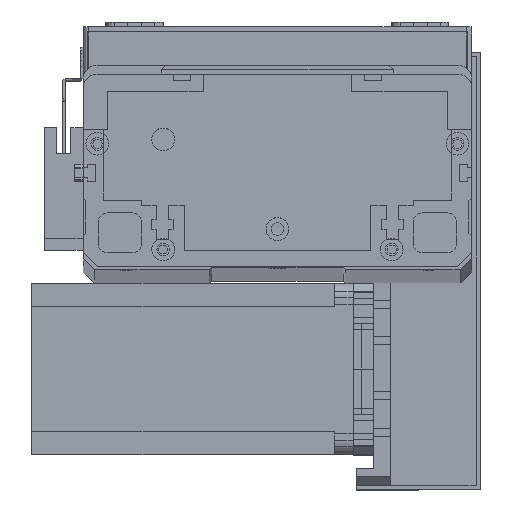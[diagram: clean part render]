
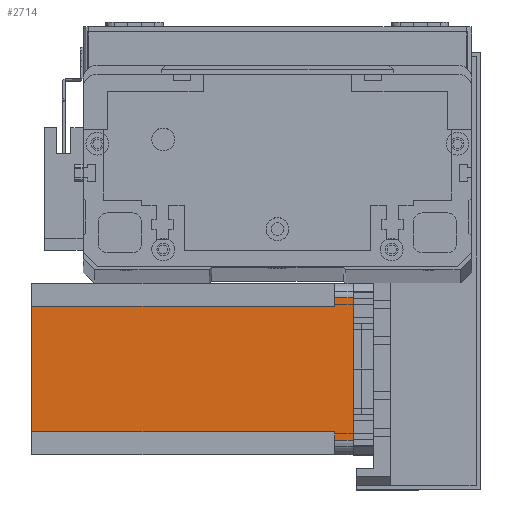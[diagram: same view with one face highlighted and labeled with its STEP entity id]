
A CAD part, top view. The second image highlights one B-rep face of the part: STEP entity #2714.
In plain terms, the highlighted planar face has unit normal (0, 0, 1) as drawn and (0, -1, 0) by its records, which use the part's own axes.
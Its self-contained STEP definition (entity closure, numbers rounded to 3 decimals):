
#1121 = FACE_OUTER_BOUND ( 'NONE', #22664, .T. ) ;
#1646 = EDGE_CURVE ( 'NONE', #22386, #20891, #21820, .T. ) ;
#1779 = EDGE_CURVE ( 'NONE', #19887, #13206, #5422, .T. ) ;
#2714 = ADVANCED_FACE ( 'NONE', ( #1121 ), #14560, .T. ) ;
#2719 = VECTOR ( 'NONE', #24834, 1000. ) ;
#3279 = EDGE_CURVE ( 'NONE', #19429, #13206, #22828, .T. ) ;
#4026 = CARTESIAN_POINT ( 'NONE',  ( 55., 0., 0. ) ) ;
#5120 = VECTOR ( 'NONE', #12774, 1000. ) ;
#5422 = LINE ( 'NONE', #19840, #29774 ) ;
#6288 = VECTOR ( 'NONE', #13745, 1000. ) ;
#6437 = ORIENTED_EDGE ( 'NONE', *, *, #1779, .F. ) ;
#6838 = ORIENTED_EDGE ( 'NONE', *, *, #3279, .T. ) ;
#7779 = CARTESIAN_POINT ( 'NONE',  ( 52., 0., -6.5 ) ) ;
#9182 = CARTESIAN_POINT ( 'NONE',  ( 8., 0., -6.5 ) ) ;
#9471 = EDGE_CURVE ( 'NONE', #19887, #21591, #18478, .T. ) ;
#9818 = ORIENTED_EDGE ( 'NONE', *, *, #29748, .T. ) ;
#10126 = EDGE_CURVE ( 'NONE', #10673, #21591, #30822, .T. ) ;
#10185 = LINE ( 'NONE', #12938, #20514 ) ;
#10284 = VECTOR ( 'NONE', #22514, 1000. ) ;
#10422 = CARTESIAN_POINT ( 'NONE',  ( 5., 0., -112.5 ) ) ;
#10673 = VERTEX_POINT ( 'NONE', #9182 ) ;
#12233 = VECTOR ( 'NONE', #26905, 1000. ) ;
#12598 = VERTEX_POINT ( 'NONE', #15507 ) ;
#12774 = DIRECTION ( 'NONE',  ( 1., 0., 0. ) ) ;
#12938 = CARTESIAN_POINT ( 'NONE',  ( 0., 0., -112.5 ) ) ;
#13206 = VERTEX_POINT ( 'NONE', #4026 ) ;
#13745 = DIRECTION ( 'NONE',  ( 0., 0., 1. ) ) ;
#13754 = ORIENTED_EDGE ( 'NONE', *, *, #23989, .F. ) ;
#14016 = DIRECTION ( 'NONE',  ( 0., 0., -1. ) ) ;
#14249 = DIRECTION ( 'NONE',  ( 0., -1., 0. ) ) ;
#14494 = CARTESIAN_POINT ( 'NONE',  ( 0., 0., -112.5 ) ) ;
#14560 = PLANE ( 'NONE',  #19731 ) ;
#15507 = CARTESIAN_POINT ( 'NONE',  ( 8., 0., -112.5 ) ) ;
#16099 = CARTESIAN_POINT ( 'NONE',  ( 8., 0., -112.5 ) ) ;
#16532 = CARTESIAN_POINT ( 'NONE',  ( 5., 0., -6.5 ) ) ;
#17136 = ORIENTED_EDGE ( 'NONE', *, *, #9471, .T. ) ;
#17460 = CARTESIAN_POINT ( 'NONE',  ( 5., 0., 0. ) ) ;
#17796 = DIRECTION ( 'NONE',  ( 1., 0., 0. ) ) ;
#18043 = CARTESIAN_POINT ( 'NONE',  ( 8., 0., -6.5 ) ) ;
#18212 = CARTESIAN_POINT ( 'NONE',  ( 55., 0., -6.5 ) ) ;
#18478 = LINE ( 'NONE', #10422, #12233 ) ;
#18735 = EDGE_CURVE ( 'NONE', #12598, #20891, #10185, .T. ) ;
#19429 = VERTEX_POINT ( 'NONE', #18212 ) ;
#19731 = AXIS2_PLACEMENT_3D ( 'NONE', #14494, #14249, #14016 ) ;
#19840 = CARTESIAN_POINT ( 'NONE',  ( 0., 0., 0. ) ) ;
#19887 = VERTEX_POINT ( 'NONE', #17460 ) ;
#20514 = VECTOR ( 'NONE', #24625, 1000. ) ;
#20891 = VERTEX_POINT ( 'NONE', #24143 ) ;
#21547 = ORIENTED_EDGE ( 'NONE', *, *, #1646, .F. ) ;
#21591 = VERTEX_POINT ( 'NONE', #16532 ) ;
#21820 = LINE ( 'NONE', #25274, #2719 ) ;
#22386 = VERTEX_POINT ( 'NONE', #7779 ) ;
#22514 = DIRECTION ( 'NONE',  ( 0., 0., 1. ) ) ;
#22664 = EDGE_LOOP ( 'NONE', ( #9818, #6838, #6437, #17136, #27568, #13754, #27072, #21547 ) ) ;
#22828 = LINE ( 'NONE', #23563, #10284 ) ;
#23218 = VECTOR ( 'NONE', #27381, 1000. ) ;
#23563 = CARTESIAN_POINT ( 'NONE',  ( 55., 0., -112.5 ) ) ;
#23989 = EDGE_CURVE ( 'NONE', #12598, #10673, #25186, .T. ) ;
#24143 = CARTESIAN_POINT ( 'NONE',  ( 52., 0., -112.5 ) ) ;
#24625 = DIRECTION ( 'NONE',  ( 1., 0., 0. ) ) ;
#24834 = DIRECTION ( 'NONE',  ( 0., 0., -1. ) ) ;
#25186 = LINE ( 'NONE', #16099, #6288 ) ;
#25274 = CARTESIAN_POINT ( 'NONE',  ( 52., 0., -112.5 ) ) ;
#26771 = CARTESIAN_POINT ( 'NONE',  ( 52., 0., -6.5 ) ) ;
#26905 = DIRECTION ( 'NONE',  ( 0., 0., -1. ) ) ;
#27072 = ORIENTED_EDGE ( 'NONE', *, *, #18735, .T. ) ;
#27381 = DIRECTION ( 'NONE',  ( -1., 0., 0. ) ) ;
#27568 = ORIENTED_EDGE ( 'NONE', *, *, #10126, .F. ) ;
#29487 = LINE ( 'NONE', #26771, #5120 ) ;
#29748 = EDGE_CURVE ( 'NONE', #22386, #19429, #29487, .T. ) ;
#29774 = VECTOR ( 'NONE', #17796, 1000. ) ;
#30822 = LINE ( 'NONE', #18043, #23218 ) ;
